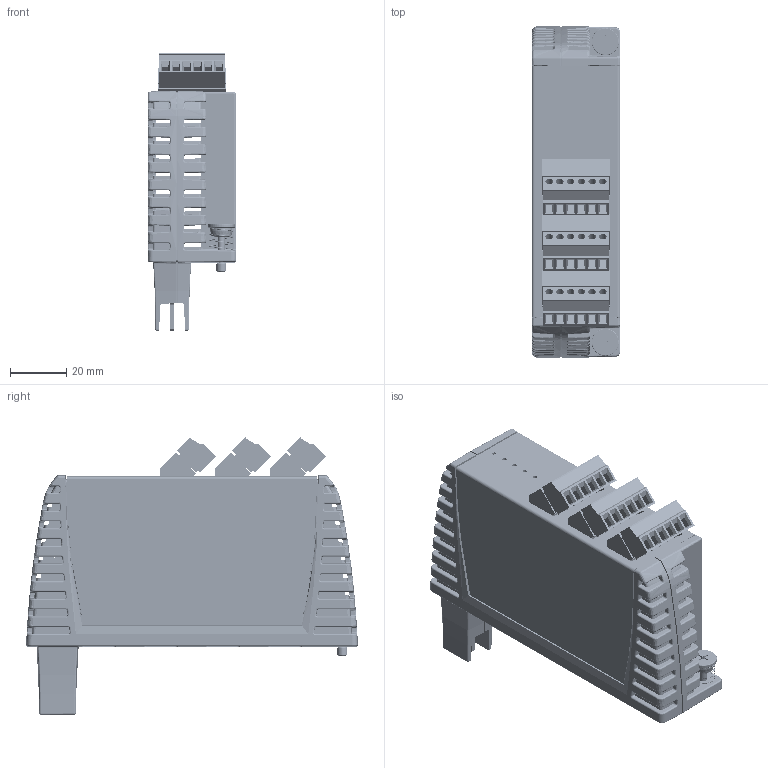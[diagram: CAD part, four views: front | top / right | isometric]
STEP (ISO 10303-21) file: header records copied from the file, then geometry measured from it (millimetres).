
FILE_DESCRIPTION (( 'STEP AP203' ), '1' );
FILE_NAME ('GMINI8,INV8,OUT4,RTD6,TC8_1.STEP', '2013-09-09T17:00:54', ( 'Network Administration' ), ( 'Red Lion Controls Inc.' ), 'SwSTEP 2.0', 'SolidWorks 2013', '' );
FILE_SCHEMA (( 'CONFIG_CONTROL_DESIGN' ));
Products named in the file (14): CA503000_MODULE CASE, LEFT HALF_1; CNTP06xA; CA503100_MODULE CASE, RIGHT HALF_1; 3conn_main_pcb_1; CV514908-wrap; 3conn_front_pcb_1; McMC 90402A106_1; 3conn_assy_1; McMC 90692A086_1; GMINI8,INV8,OUT4,RTD6,TC8_1; McMC 91771A143_91771A143_1; PEM SCBR-632-8 ZI_1; MODULE LABEL_1; CNTP06G0_1
Assembly tree (23 placements, depth 3):
  GMINI8,INV8,OUT4,RTD6,TC8_1
    CA503000_MODULE CASE, LEFT HALF_1
    CA503100_MODULE CASE, RIGHT HALF_1
    CV514908-wrap
    McMC 90402A106_1  x2
    McMC 90692A086_1  x4
    McMC 91771A143_91771A143_1  x2
    PEM SCBR-632-8 ZI_1  x2
    MODULE LABEL_1
    3conn_assy_1
      CNTP06G0_1  x3
      CNTP06xA  x3
      3conn_main_pcb_1
      3conn_front_pcb_1
Bounding box: 31.5 x 117.84 x 98.44 mm (x, y, z)
Volume: 63852.5 mm3; surface area: 90226.4 mm2
Topology: 24 solids, 24 shells, 5644 faces, 14236 edges, 8643 vertices
Faces by surface type: plane 1963, bspline 1855, cylinder 1399, cone 390, sphere 28, torus 9
Entity records: 217480 total; most frequent: CARTESIAN_POINT 125959, ORIENTED_EDGE 22066, DIRECTION 14195, EDGE_CURVE 11033, VERTEX_POINT 6641, AXIS2_PLACEMENT_3D 5015, EDGE_LOOP 4572, ADVANCED_FACE 4421
